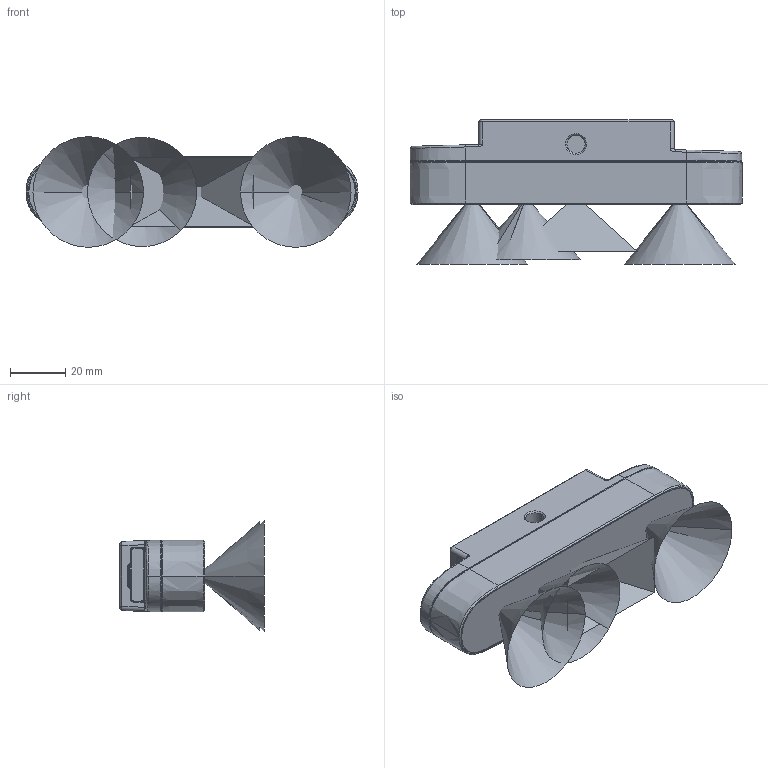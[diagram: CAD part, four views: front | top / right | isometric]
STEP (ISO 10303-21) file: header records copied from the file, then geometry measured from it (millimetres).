
FILE_DESCRIPTION((''),'2;1');
FILE_NAME('MB2404-OUT-0814_ASM','2024-10-10T11:53:09',('guanshanyue'),(''),'CREO PARAMETRIC BY PTC INC, 2021284','CREO PARAMETRIC BY PTC INC, 2021284','');
FILE_SCHEMA(('CONFIG_CONTROL_DESIGN','GEOMETRIC_VALIDATION_PROPERTIES_MIM'));
Length unit declared in the file: millimetre
Products named in the file (49): IR_FPC_ASSY_ASM_1_ASM_1; IRBF_1_1; OB_IR16_MODULE_ASM_1_ASM_1_ASM; LDM2101_RFPC_ASM_1; LDM2101_FPCA_ASM_1_ASM; OB_LDM2101_MODULE_1_ASM_2_ASM; MSBR-2_2_1; MSBR-1_2_1; OK-118KFM010-35_ASM_2_ASM_1_ASM; PCBA_OP_ASM_2_ASM; PCB_LED_1; LED_3_2; OK-118RM010-35_1; FPCA_LED_ASM_1_ASM; RB_OP_2_1; RB_OP_2_2; RB_OP_2_3; RB_OP_2_4; RB_OP_2_5; RB_OP_2_ASM; OP_MOD_ASM_2_ASM; PART2_ASM_2_ASM_2_ASM_2; 810_805_518_516_8PIN_ASM_2_AS_1_ASM; CX90B1-24P-508510_3_2; CX90B1-24P_ASM_1_1; 810_805_518_516_8PIN_1_1_1; PART2_ASM_1_ASM_1_ASM; 810_805_518_516_8PIN_ASM_1_AS_1_ASM; GEMINI_II_MA6600_PCBA_ASM_1_A_1_ASM; MA6600_PCBA_ASM_ASM_1_ASM; GEMINI_II_MA6600_PCBA_ASM_3_A_2_ASM; MB_MOD_ASM_3_ASM; MODULE_INNER_ASM_1_ASM; TOP_HSG_ID_2; GLASS_ID_2; ADH_ASM_3; TOP_EXTRUDED1_ASM_5_ASM; _0001_90; 000_7; BOT_HSG_PST_ASM_13_ASM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
Assembly tree (50 placements, depth 10):
  MB2404-OUT-0814_ASM
    00_TB2201_ASM_51_ASM
      MODULE_INNER_ASM_1_ASM
        OP_MOD_ASM_2_ASM
          OB_IR16_MODULE_ASM_1_ASM_1_ASM  x2
            IR_FPC_ASSY_ASM_1_ASM_1
            IRBF_1_1
          OB_LDM2101_MODULE_1_ASM_2_ASM
            LDM2101_FPCA_ASM_1_ASM
              LDM2101_RFPC_ASM_1
          PCBA_OP_ASM_2_ASM
            OK-118KFM010-35_ASM_2_ASM_1_ASM
              MSBR-2_2_1
              MSBR-1_2_1
          FPCA_LED_ASM_1_ASM
            PCB_LED_1
            LED_3_2
            OK-118RM010-35_1
          RB_OP_2_ASM
            RB_OP_2_1
            RB_OP_2_2
            RB_OP_2_3
            RB_OP_2_4
            RB_OP_2_5
        MB_MOD_ASM_3_ASM
          GEMINI_II_MA6600_PCBA_ASM_3_A_2_ASM
            810_805_518_516_8PIN_ASM_2_AS_1_ASM
              PART2_ASM_2_ASM_2_ASM_2
            CX90B1-24P-508510_3_2
            MA6600_PCBA_ASM_ASM_1_ASM
              GEMINI_II_MA6600_PCBA_ASM_1_A_1_ASM
                CX90B1-24P_ASM_1_1
                810_805_518_516_8PIN_ASM_1_AS_1_ASM
                  PART2_ASM_1_ASM_1_ASM
      TOP_EXTRUDED1_ASM_5_ASM
        TOP_HSG_ID_2
        GLASS_ID_2
        ADH_ASM_3
      BOT_HSG_PST_ASM_13_ASM
        _0001_90
        000_7
      0003_7
    G210_202410100001_ASM
      0001-G510-OUT_0913_ASM_1_ASM
        0001-G510-OUT_ASM_12_ASM_1_ASM
          LENS-00_1-3_1_1  x2
          LDM-3_2_1
          RGB-LENS_5_1_1
Bounding box: 120 x 52.14 x 39.98 mm (x, y, z)
Volume: 23369.8 mm3; surface area: 43706.9 mm2
Topology: 23 solids, 70 shells, 7435 faces, 21522 edges, 14024 vertices
Faces by surface type: plane 4916, cylinder 1637, cone 321, torus 236, bspline 169, extrusion 126, revolution 16, sphere 14
Entity records: 294752 total; most frequent: CARTESIAN_POINT 65423, ORIENTED_EDGE 42266, DIRECTION 38828, EDGE_CURVE 21148, VECTOR 15672, LINE 15574, VERTEX_POINT 13803, AXIS2_PLACEMENT_3D 11572
